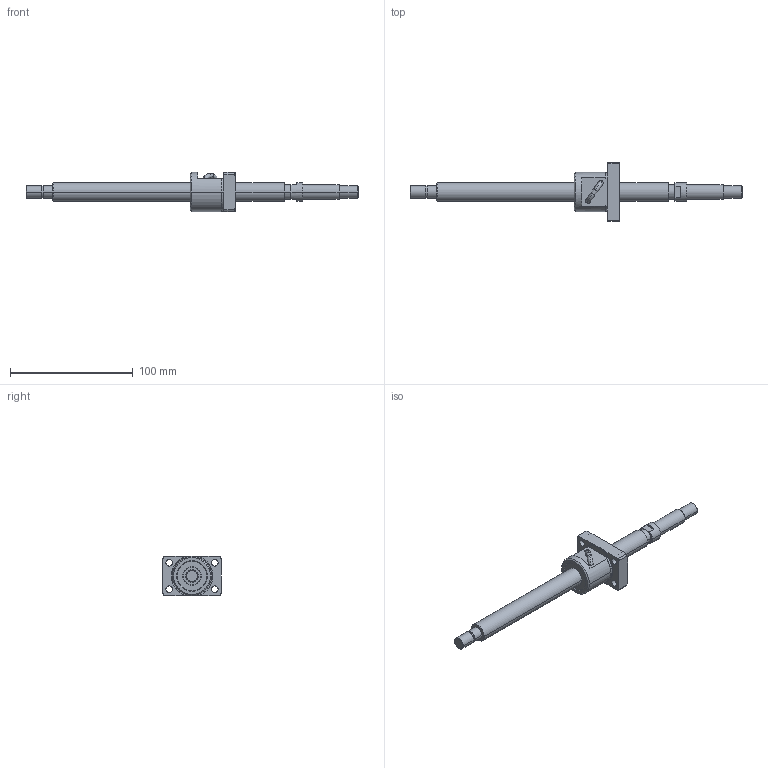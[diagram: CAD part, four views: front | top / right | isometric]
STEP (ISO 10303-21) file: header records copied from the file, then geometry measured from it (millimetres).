
FILE_DESCRIPTION (( 'STEP AP214' ), '1' );
FILE_NAME ('BS1504A-3D.STEP', '2014-03-05T14:47:09', ( '' ), ( '' ), 'SwSTEP 2.0', 'SolidWorks 2012', '' );
FILE_SCHEMA (( 'AUTOMOTIVE_DESIGN' ));
Length unit declared in the file: millimetre
Products named in the file (3): BS1504Aナット; BS1504AŽ²; BS1504A-3D
Assembly tree (2 placements, depth 2):
  BS1504A-3D
    BS1504AŽ²
    BS1504Aナット
Bounding box: 271 x 48 x 32 mm (x, y, z)
Volume: 67618.6 mm3; surface area: 23057.2 mm2
Topology: 2 solids, 2 shells, 152 faces, 390 edges, 253 vertices
Faces by surface type: cylinder 70, plane 42, cone 34, torus 4, bspline 2
Entity records: 6003 total; most frequent: CARTESIAN_POINT 2043, DIRECTION 816, ORIENTED_EDGE 776, EDGE_CURVE 388, AXIS2_PLACEMENT_3D 338, VERTEX_POINT 253, EDGE_LOOP 185, CIRCLE 183
